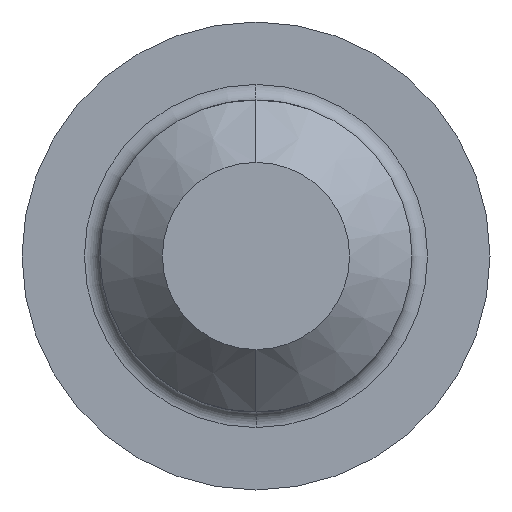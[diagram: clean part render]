
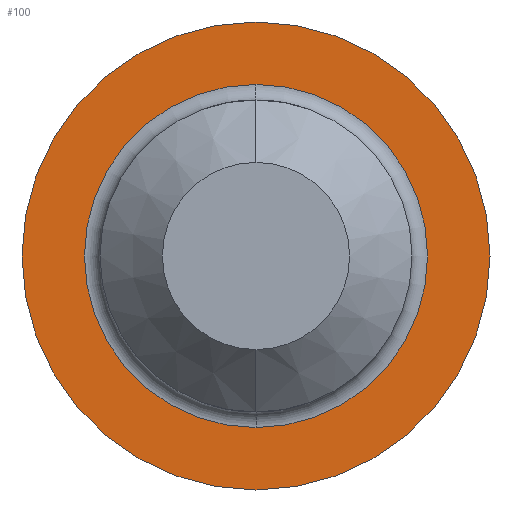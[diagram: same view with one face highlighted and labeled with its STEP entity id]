
A CAD part, left-side view. The second image highlights one B-rep face of the part: STEP entity #100.
In plain terms, the highlighted planar face has unit normal (-1, 0, 0).
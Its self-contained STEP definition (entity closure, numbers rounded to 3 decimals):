
#34 = DIRECTION ( 'NONE',  ( 0., 0., -1. ) ) ;
#38 = CARTESIAN_POINT ( 'NONE',  ( 0., 0., 0. ) ) ;
#39 = AXIS2_PLACEMENT_3D ( 'NONE', #38, #40, #34 ) ;
#40 = DIRECTION ( 'NONE',  ( 1., 0., 0. ) ) ;
#41 = CIRCLE ( 'NONE', #39, 3.3 ) ;
#42 = CARTESIAN_POINT ( 'NONE',  ( 0., 0., 0. ) ) ;
#43 = AXIS2_PLACEMENT_3D ( 'NONE', #42, #45, #44 ) ;
#44 = DIRECTION ( 'NONE',  ( 0., 0., 1. ) ) ;
#45 = DIRECTION ( 'NONE',  ( -1., 0., 0. ) ) ;
#46 = CIRCLE ( 'NONE', #43, 4.5 ) ;
#55 = ORIENTED_EDGE ( 'NONE', *, *, #126, .T. ) ;
#66 = ORIENTED_EDGE ( 'NONE', *, *, #129, .T. ) ;
#71 = VERTEX_POINT ( 'NONE', #345 ) ;
#72 = VERTEX_POINT ( 'NONE', #382 ) ;
#98 = EDGE_LOOP ( 'NONE', ( #153, #55 ) ) ;
#100 = ADVANCED_FACE ( 'NONE', ( #322, #332 ), #331, .F. ) ;
#101 = ORIENTED_EDGE ( 'NONE', *, *, #136, .T. ) ;
#126 = EDGE_CURVE ( 'NONE', #71, #72, #46, .T. ) ;
#127 = EDGE_LOOP ( 'NONE', ( #66, #101 ) ) ;
#129 = EDGE_CURVE ( 'NONE', #144, #145, #41, .T. ) ;
#136 = EDGE_CURVE ( 'NONE', #145, #144, #439, .T. ) ;
#144 = VERTEX_POINT ( 'NONE', #404 ) ;
#145 = VERTEX_POINT ( 'NONE', #437 ) ;
#153 = ORIENTED_EDGE ( 'NONE', *, *, #161, .T. ) ;
#161 = EDGE_CURVE ( 'NONE', #72, #71, #419, .T. ) ;
#314 = AXIS2_PLACEMENT_3D ( 'NONE', #356, #333, #352 ) ;
#322 = FACE_BOUND ( 'NONE', #127, .T. ) ;
#331 = PLANE ( 'NONE',  #314 ) ;
#332 = FACE_OUTER_BOUND ( 'NONE', #98, .T. ) ;
#333 = DIRECTION ( 'NONE',  ( 1., 0., 0. ) ) ;
#345 = CARTESIAN_POINT ( 'NONE',  ( 0., 0., -4.5 ) ) ;
#352 = DIRECTION ( 'NONE',  ( 0., 0., -1. ) ) ;
#356 = CARTESIAN_POINT ( 'NONE',  ( 0., 4.5, 0. ) ) ;
#382 = CARTESIAN_POINT ( 'NONE',  ( 0., 0., 4.5 ) ) ;
#395 = DIRECTION ( 'NONE',  ( -1., 0., 0. ) ) ;
#396 = CARTESIAN_POINT ( 'NONE',  ( 0., 0., 0. ) ) ;
#403 = DIRECTION ( 'NONE',  ( 0., 0., 1. ) ) ;
#404 = CARTESIAN_POINT ( 'NONE',  ( 0., 0., -3.3 ) ) ;
#419 = CIRCLE ( 'NONE', #453, 4.5 ) ;
#424 = DIRECTION ( 'NONE',  ( 1., 0., 0. ) ) ;
#425 = CARTESIAN_POINT ( 'NONE',  ( 0., 0., 0. ) ) ;
#426 = AXIS2_PLACEMENT_3D ( 'NONE', #425, #424, #442 ) ;
#437 = CARTESIAN_POINT ( 'NONE',  ( 0., 0., 3.3 ) ) ;
#439 = CIRCLE ( 'NONE', #426, 3.3 ) ;
#442 = DIRECTION ( 'NONE',  ( 0., 0., -1. ) ) ;
#453 = AXIS2_PLACEMENT_3D ( 'NONE', #396, #395, #403 ) ;
